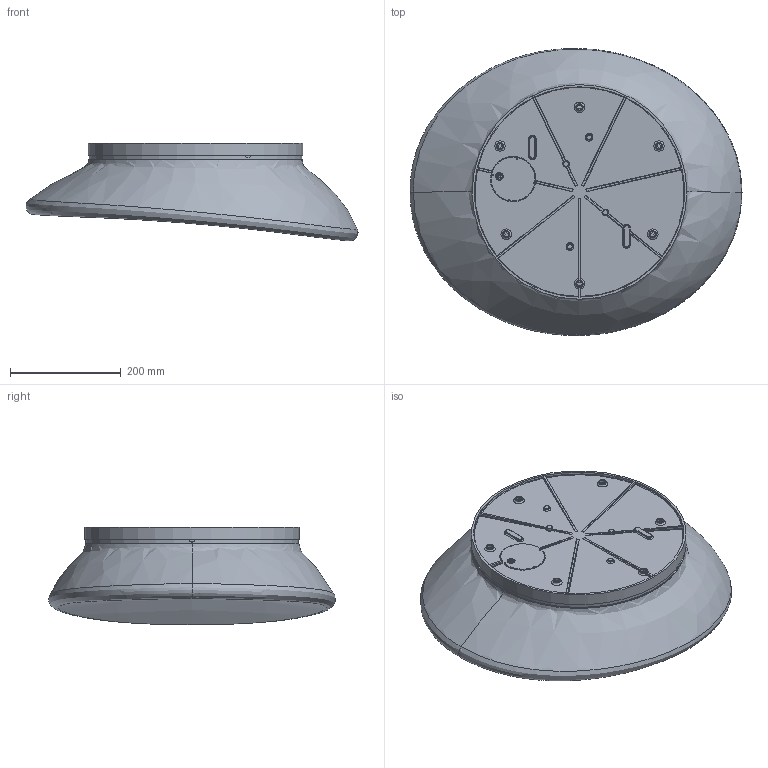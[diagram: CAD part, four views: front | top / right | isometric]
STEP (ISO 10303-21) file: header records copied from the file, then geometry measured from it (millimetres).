
FILE_DESCRIPTION( ( 'Unknown' ), '1' );
FILE_NAME( 'U:/ARCHIVIO TECNICO/ARCHIVIO 3D/7787.stp', 'Unknown', ( 'Unknown' ), ( 'Unknown' ), 'PSStep 17.0.49', 'Unknown', ' ' );
FILE_SCHEMA( ( 'AUTOMOTIVE_DESIGN { 1 0 10303 214 1 1 1 1 }' ) );
Length unit declared in the file: millimetre
Products named in the file (5): Assem1; O2034-9; 103000006542; 061000182358; 061000142359
Assembly tree (4 placements, depth 2):
  Assem1
    O2034-9
    103000006542
    061000182358
    061000142359
Bounding box: 598.53 x 517.44 x 176.63 mm (x, y, z)
Volume: 2582726 mm3; surface area: 1338261.5 mm2
Topology: 4 solids, 4 shells, 783 faces, 1837 edges, 1033 vertices
Faces by surface type: cylinder 229, plane 169, bspline 152, torus 138, sphere 54, cone 38, offset 3
Full cylindrical faces by diameter (mm): 1.8 x2, 2 x10, 2.5 x4, 4.5 x1, 10 x15, 13 x13, 14 x1, 62.9 x1, 82 x1, 379 x1, 383 x1, 387 x1
Entity records: 71984 total; most frequent: CARTESIAN_POINT 49510, DIRECTION 3496, ORIENTED_EDGE 3168, EDGE_CURVE 1584, AXIS2_PLACEMENT_3D 1536, VERTEX_POINT 980, EDGE_LOOP 954, FACE_OUTER_BOUND 881
